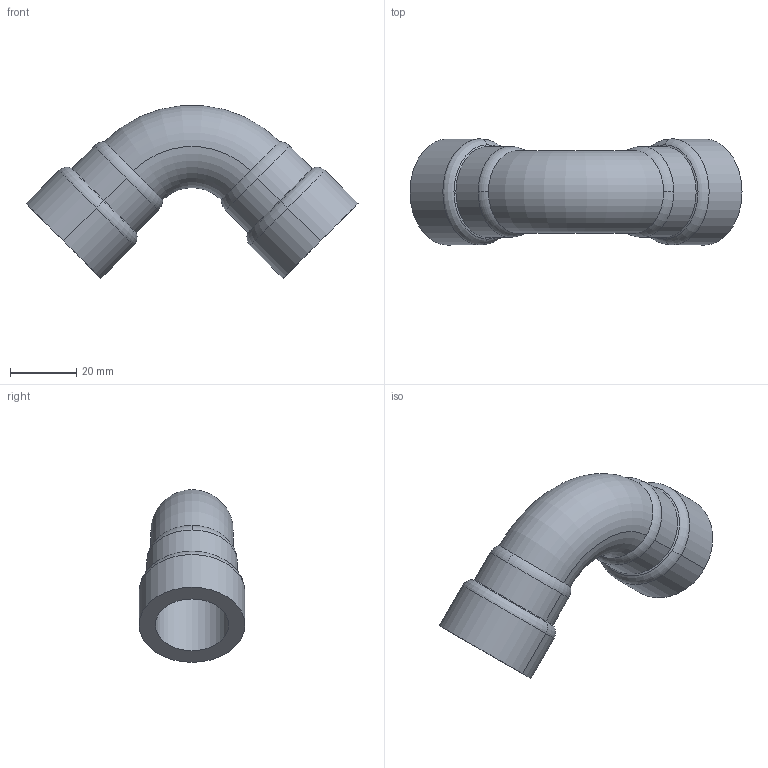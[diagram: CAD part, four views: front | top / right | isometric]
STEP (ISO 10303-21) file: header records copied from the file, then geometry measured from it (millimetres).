
FILE_DESCRIPTION(('Creo Elements/Direct Modeling STEP Export'),'2;1');
FILE_NAME('C9408_1-2.stp','2020-06-23T14:36:48',(''),(''),'PTC Creo Elements/Direct Modeling STEP processor for AP214 (Solid Model)','PTC Creo Elements/Direct Modeling 19.0C 15-Aug-2015 (C) Parametric Technology GmbH','');
FILE_SCHEMA(('AUTOMOTIVE_DESIGN { 1 0 10303 214 1 1 1 1 }'));
Length unit declared in the file: millimetre
Products named in the file (2): 9408
Assembly tree (1 placements, depth 2):
  9408
    9408
Bounding box: 100.58 x 32.1 x 52.29 mm (x, y, z)
Volume: 27171.1 mm3; surface area: 16570.2 mm2
Topology: 1 solids, 1 shells, 36 faces, 84 edges, 52 vertices
Faces by surface type: cylinder 16, torus 12, plane 4, cone 4
Entity records: 945 total; most frequent: ORIENTED_EDGE 168, DIRECTION 160, CARTESIAN_POINT 142, EDGE_CURVE 84, AXIS2_PLACEMENT_3D 70, VERTEX_POINT 52, EDGE_LOOP 40, FACE_OUTER_BOUND 36
